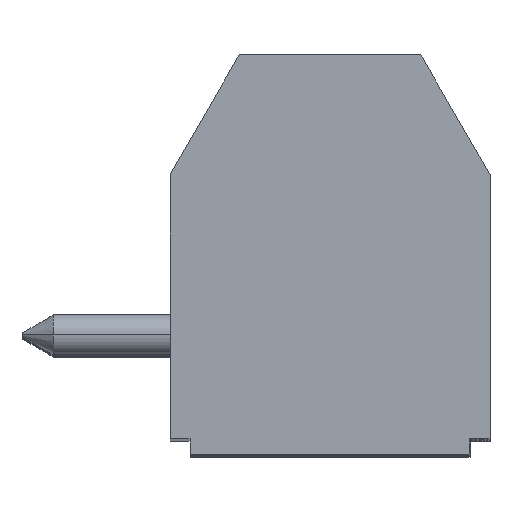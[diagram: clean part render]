
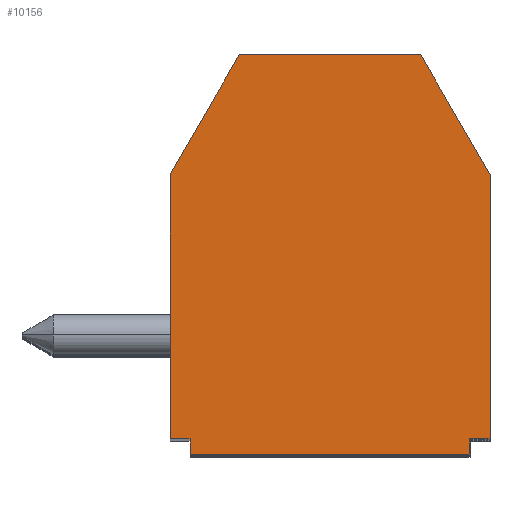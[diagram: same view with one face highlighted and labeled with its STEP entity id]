
A CAD part, top view. The second image highlights one B-rep face of the part: STEP entity #10156.
In plain terms, the highlighted planar face has unit normal (0, 0, 1).
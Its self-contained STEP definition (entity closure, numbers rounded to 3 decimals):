
#9489 = VERTEX_POINT ( 'NONE', #19711 ) ;
#9546 = VERTEX_POINT ( 'NONE', #19797 ) ;
#9548 = EDGE_CURVE ( 'NONE', #9489, #9546, #19796, .T. ) ;
#9727 = VERTEX_POINT ( 'NONE', #20126 ) ;
#9729 = EDGE_CURVE ( 'NONE', #9546, #9727, #20125, .T. ) ;
#9771 = VERTEX_POINT ( 'NONE', #20187 ) ;
#9773 = EDGE_CURVE ( 'NONE', #9789, #9771, #20186, .T. ) ;
#9789 = VERTEX_POINT ( 'NONE', #20227 ) ;
#9791 = EDGE_CURVE ( 'NONE', #9727, #9789, #20226, .T. ) ;
#9853 = VERTEX_POINT ( 'NONE', #20289 ) ;
#9855 = EDGE_CURVE ( 'NONE', #9939, #9853, #20288, .T. ) ;
#9918 = EDGE_CURVE ( 'NONE', #9771, #9925, #20331, .T. ) ;
#9925 = VERTEX_POINT ( 'NONE', #20316 ) ;
#9930 = EDGE_CURVE ( 'NONE', #9925, #9939, #20311, .T. ) ;
#9939 = VERTEX_POINT ( 'NONE', #20360 ) ;
#10096 = EDGE_CURVE ( 'NONE', #10097, #9489, #20507, .T. ) ;
#10097 = VERTEX_POINT ( 'NONE', #20503 ) ;
#10122 = ORIENTED_EDGE ( 'NONE', *, *, #9918, .T. ) ;
#10123 = ORIENTED_EDGE ( 'NONE', *, *, #9930, .T. ) ;
#10124 = ORIENTED_EDGE ( 'NONE', *, *, #9855, .T. ) ;
#10135 = EDGE_LOOP ( 'NONE', ( #10136, #10139, #10141, #10142, #10143, #10144, #10145, #10122, #10123, #10124 ) ) ;
#10136 = ORIENTED_EDGE ( 'NONE', *, *, #10137, .F. ) ;
#10137 = EDGE_CURVE ( 'NONE', #10138, #9853, #20530, .T. ) ;
#10138 = VERTEX_POINT ( 'NONE', #20526 ) ;
#10139 = ORIENTED_EDGE ( 'NONE', *, *, #10140, .F. ) ;
#10140 = EDGE_CURVE ( 'NONE', #10097, #10138, #20525, .T. ) ;
#10141 = ORIENTED_EDGE ( 'NONE', *, *, #10096, .T. ) ;
#10142 = ORIENTED_EDGE ( 'NONE', *, *, #9548, .T. ) ;
#10143 = ORIENTED_EDGE ( 'NONE', *, *, #9729, .T. ) ;
#10144 = ORIENTED_EDGE ( 'NONE', *, *, #9791, .T. ) ;
#10145 = ORIENTED_EDGE ( 'NONE', *, *, #9773, .T. ) ;
#10156 = ADVANCED_FACE ( 'NONE', ( #20521 ), #20520, .T. ) ;
#19711 = CARTESIAN_POINT ( 'NONE',  ( -3.062, -2.845, 0. ) ) ;
#19793 = DIRECTION ( 'NONE',  ( 0., -1., 0. ) ) ;
#19794 = VECTOR ( 'NONE', #19793, 1000. ) ;
#19795 = CARTESIAN_POINT ( 'NONE',  ( -3.062, -3.045, 0. ) ) ;
#19796 = LINE ( 'NONE', #19795, #19794 ) ;
#19797 = CARTESIAN_POINT ( 'NONE',  ( -3.062, -3.245, 0. ) ) ;
#20122 = DIRECTION ( 'NONE',  ( 1., 0., 0. ) ) ;
#20123 = VECTOR ( 'NONE', #20122, 1000. ) ;
#20124 = CARTESIAN_POINT ( 'NONE',  ( 0.438, -3.245, 0. ) ) ;
#20125 = LINE ( 'NONE', #20124, #20123 ) ;
#20126 = CARTESIAN_POINT ( 'NONE',  ( 3.938, -3.245, 0. ) ) ;
#20183 = DIRECTION ( 'NONE',  ( 1., 0., 0. ) ) ;
#20184 = VECTOR ( 'NONE', #20183, 1000. ) ;
#20185 = CARTESIAN_POINT ( 'NONE',  ( 0.438, -2.845, 0. ) ) ;
#20186 = LINE ( 'NONE', #20185, #20184 ) ;
#20187 = CARTESIAN_POINT ( 'NONE',  ( 4.438, -2.845, 0. ) ) ;
#20223 = DIRECTION ( 'NONE',  ( 0., 1., 0. ) ) ;
#20224 = VECTOR ( 'NONE', #20223, 1000. ) ;
#20225 = CARTESIAN_POINT ( 'NONE',  ( 3.938, 1.755, 0. ) ) ;
#20226 = LINE ( 'NONE', #20225, #20224 ) ;
#20227 = CARTESIAN_POINT ( 'NONE',  ( 3.938, -2.845, 0. ) ) ;
#20285 = DIRECTION ( 'NONE',  ( -1., 0., 0. ) ) ;
#20286 = VECTOR ( 'NONE', #20285, 1000. ) ;
#20287 = CARTESIAN_POINT ( 'NONE',  ( 0.438, 6.755, 0. ) ) ;
#20288 = LINE ( 'NONE', #20287, #20286 ) ;
#20289 = CARTESIAN_POINT ( 'NONE',  ( -1.83, 6.755, 0. ) ) ;
#20309 = DIRECTION ( 'NONE',  ( -0.5, 0.866, 0. ) ) ;
#20310 = CARTESIAN_POINT ( 'NONE',  ( 4.438, 3.755, 0. ) ) ;
#20311 = LINE ( 'NONE', #20310, #20372 ) ;
#20316 = CARTESIAN_POINT ( 'NONE',  ( 4.438, 3.755, 0. ) ) ;
#20328 = DIRECTION ( 'NONE',  ( 0., 1., 0. ) ) ;
#20329 = VECTOR ( 'NONE', #20328, 1000. ) ;
#20330 = CARTESIAN_POINT ( 'NONE',  ( 4.438, 1.755, 0. ) ) ;
#20331 = LINE ( 'NONE', #20330, #20329 ) ;
#20360 = CARTESIAN_POINT ( 'NONE',  ( 2.706, 6.755, 0. ) ) ;
#20372 = VECTOR ( 'NONE', #20309, 1000. ) ;
#20503 = CARTESIAN_POINT ( 'NONE',  ( -3.562, -2.845, 0. ) ) ;
#20504 = DIRECTION ( 'NONE',  ( 1., 0., 0. ) ) ;
#20505 = VECTOR ( 'NONE', #20504, 1000. ) ;
#20506 = CARTESIAN_POINT ( 'NONE',  ( 0.438, -2.845, 0. ) ) ;
#20507 = LINE ( 'NONE', #20506, #20505 ) ;
#20516 = DIRECTION ( 'NONE',  ( 1., 0., 0. ) ) ;
#20517 = DIRECTION ( 'NONE',  ( 0., 0., 1. ) ) ;
#20518 = CARTESIAN_POINT ( 'NONE',  ( -3.562, -3.245, 0. ) ) ;
#20519 = AXIS2_PLACEMENT_3D ( 'NONE', #20518, #20517, #20516 ) ;
#20520 = PLANE ( 'NONE',  #20519 ) ;
#20521 = FACE_OUTER_BOUND ( 'NONE', #10135, .T. ) ;
#20522 = DIRECTION ( 'NONE',  ( 0., 1., 0. ) ) ;
#20523 = VECTOR ( 'NONE', #20522, 1000. ) ;
#20524 = CARTESIAN_POINT ( 'NONE',  ( -3.562, 0.455, 0. ) ) ;
#20525 = LINE ( 'NONE', #20524, #20523 ) ;
#20526 = CARTESIAN_POINT ( 'NONE',  ( -3.562, 3.755, 0. ) ) ;
#20527 = DIRECTION ( 'NONE',  ( 0.5, 0.866, 0. ) ) ;
#20528 = VECTOR ( 'NONE', #20527, 1000. ) ;
#20529 = CARTESIAN_POINT ( 'NONE',  ( -2.696, 5.255, 0. ) ) ;
#20530 = LINE ( 'NONE', #20529, #20528 ) ;
